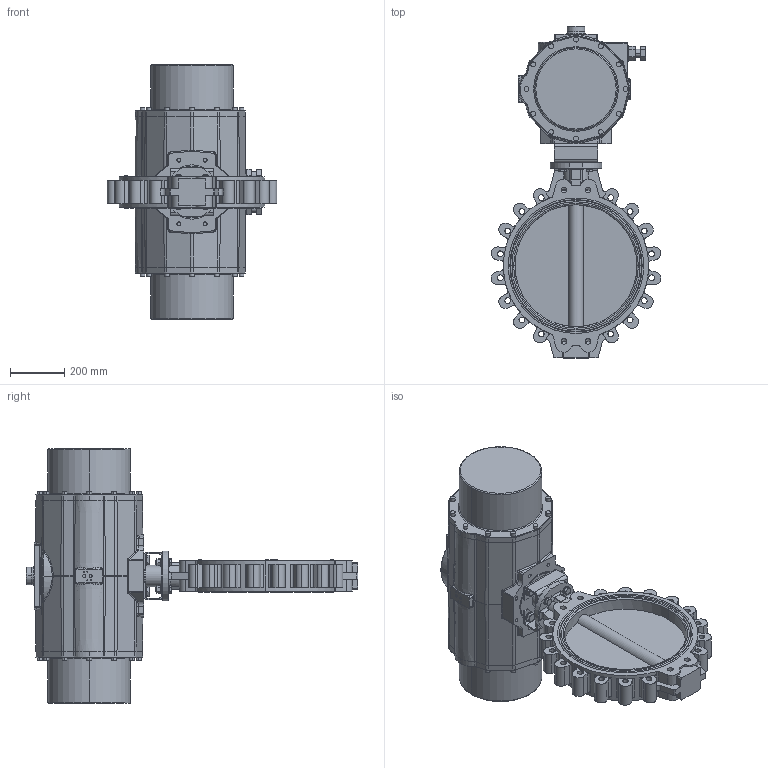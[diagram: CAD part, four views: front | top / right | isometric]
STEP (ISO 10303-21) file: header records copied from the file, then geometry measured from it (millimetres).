
FILE_DESCRIPTION (( 'STEP AP214' ), '1' );
FILE_NAME ('67366.step', '2020-10-23T12:39:04', ( '' ), ( '' ), 'SwSTEP 2.0', 'SolidWorks 2019', '' );
FILE_SCHEMA (( 'AUTOMOTIVE_DESIGN' ));
Length unit declared in the file: millimetre
Products named in the file (10): U-Scheibe DIN 125 A_M16; 67366; 6kt-Schr DIN 933_M16x50; 6kt-Schr DIN 933_M20x35; U-Scheibe DIN 125 A_M20; MB F16-F14_MB F16-F14 (1.4301); Vierkantadapter VK36-55; 6kt-Mu DIN 934_M16; SR4000-V55_02; TL20-0450_M01
Assembly tree (28 placements, depth 2):
  67366
    TL20-0450_M01
    SR4000-V55_02
    U-Scheibe DIN 125 A_M16  x8
    6kt-Schr DIN 933_M16x50  x4
    MB F16-F14_MB F16-F14 (1.4301)
    6kt-Mu DIN 934_M16  x4
    6kt-Schr DIN 933_M20x35  x4
    U-Scheibe DIN 125 A_M20  x4
    Vierkantadapter VK36-55
Bounding box: 625.8 x 1224.5 x 940 mm (x, y, z)
Volume: 117349913.1 mm3; surface area: 2911687 mm2
Topology: 29 solids, 29 shells, 1529 faces, 3594 edges, 2213 vertices
Faces by surface type: cylinder 593, plane 576, cone 163, bspline 115, torus 80, sphere 2
Entity records: 43693 total; most frequent: CARTESIAN_POINT 10791, DIRECTION 6299, ORIENTED_EDGE 5956, EDGE_CURVE 2978, AXIS2_PLACEMENT_3D 2473, VERTEX_POINT 1857, EDGE_LOOP 1407, VECTOR 1353
